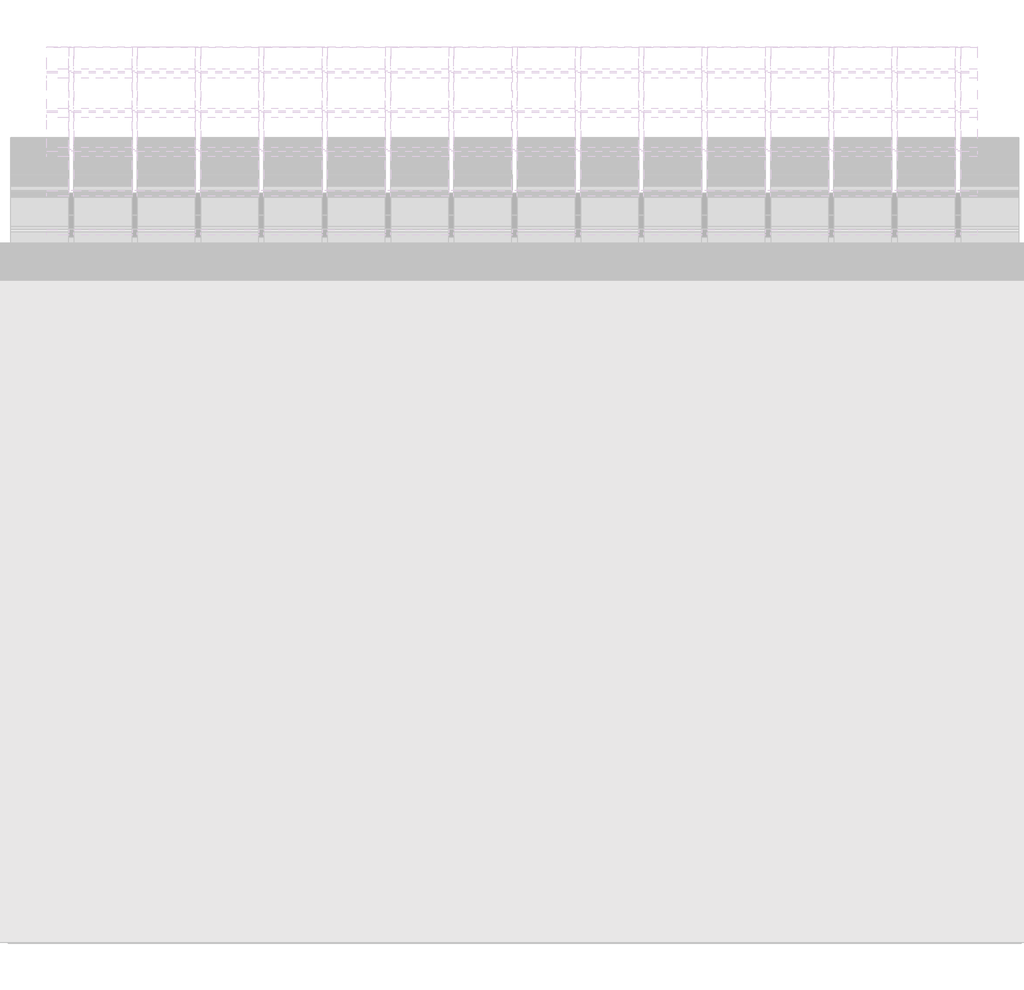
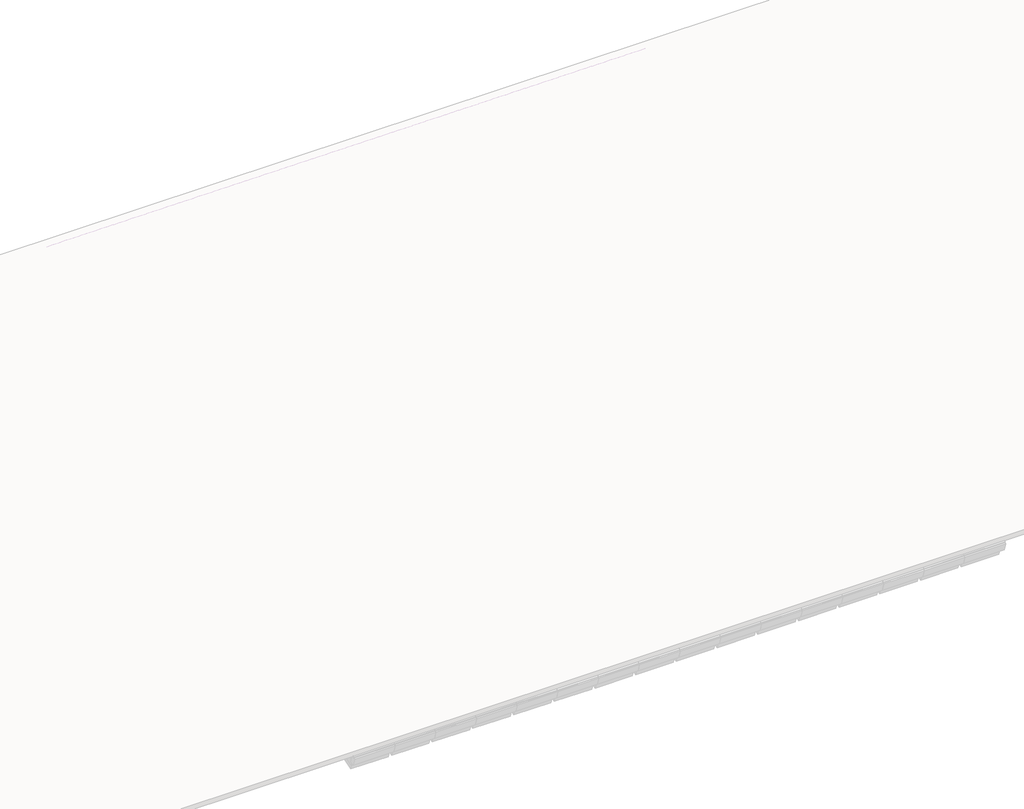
# One storey, part 27 of 57: 79 members, 45 plates.
"""IFC4 building model written with IfcOpenShell, lengths in millimetres."""

from ifc_helpers import new_model, si_unit, origin, place, context, project, spatial, transform, mapped, element, save
from components import rectangular_mullion_59984080, rectangular_mullion_2d2423ea, rectangular_mullion_caibro_e4384bba, rectangular_mullion_caibro_0993a3cf, rectangular_mullion_caibro_9bd7bc61, empty_system_panel_vazio_178faf58, empty_system_panel_vazio_2c78850d

model = new_model("IFC4")

# Units and contexts
model_context = context("Model", 3, world=origin())
ifc_project = project(units=[si_unit("LENGTHUNIT", "METRE", prefix="MILLI")], contexts=[model_context])

# Site, building, storey
site = spatial("IfcSite", under=ifc_project)
building = spatial("IfcBuilding", under=site)
storey = spatial("IfcBuildingStorey", under=building, Name="Nível 2", Elevation=4100.0)

# Members
placement = place(None, origin())
rectangular_mullion_shape = rectangular_mullion_59984080(model_context)
element("IfcMember", 1, ObjectType="Rectangular Mullion : Ripa", at=placement, inside=storey, context=model_context, shape_type="MappedRepresentation", body=[
    mapped(rectangular_mullion_shape, transform((20285.3781013, 8162.5832694, 3598.8241594), x_axis=(0.0, 0.9578262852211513, 0.2873478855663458), y_axis=(0.0, 0.2873478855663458, -0.9578262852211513), z_axis=(-1.0, 0.0, 0.0))),
])
element("IfcMember", 2, ObjectType="Rectangular Mullion : Ripa", at=placement, inside=storey, context=model_context, shape_type="MappedRepresentation", body=[
    mapped(rectangular_mullion_shape, transform((20882.4328578, 8162.5832694, 3598.8241594), x_axis=(0.0, 0.9578262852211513, 0.2873478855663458), y_axis=(0.0, 0.2873478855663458, -0.9578262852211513), z_axis=(-1.0, 0.0, 0.0))),
])
element("IfcMember", 3, ObjectType="Rectangular Mullion : Ripa", at=placement, inside=storey, context=model_context, shape_type="MappedRepresentation", body=[
    mapped(rectangular_mullion_shape, transform((21479.4876142, 8162.5832694, 3598.8241594), x_axis=(0.0, 0.9578262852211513, 0.2873478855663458), y_axis=(0.0, 0.2873478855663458, -0.9578262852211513), z_axis=(-1.0, 0.0, 0.0))),
])
element("IfcMember", 4, ObjectType="Rectangular Mullion : Ripa", at=placement, inside=storey, context=model_context, shape_type="MappedRepresentation", body=[
    mapped(rectangular_mullion_shape, transform((20285.3781013, 8532.7605281, 3709.877337), x_axis=(0.0, 0.9578262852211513, 0.2873478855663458), y_axis=(0.0, 0.2873478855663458, -0.9578262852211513), z_axis=(-1.0, 0.0, 0.0))),
])
element("IfcMember", 5, ObjectType="Rectangular Mullion : Ripa", at=placement, inside=storey, context=model_context, shape_type="MappedRepresentation", body=[
    mapped(rectangular_mullion_shape, transform((20882.4328578, 8532.7605281, 3709.877337), x_axis=(0.0, 0.9578262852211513, 0.2873478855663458), y_axis=(0.0, 0.2873478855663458, -0.9578262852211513), z_axis=(-1.0, 0.0, 0.0))),
])
element("IfcMember", 6, ObjectType="Rectangular Mullion : Ripa", at=placement, inside=storey, context=model_context, shape_type="MappedRepresentation", body=[
    mapped(rectangular_mullion_shape, transform((21479.4876142, 8532.7605281, 3709.877337), x_axis=(0.0, 0.9578262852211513, 0.2873478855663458), y_axis=(0.0, 0.2873478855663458, -0.9578262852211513), z_axis=(-1.0, 0.0, 0.0))),
])
element("IfcMember", 7, ObjectType="Rectangular Mullion : Ripa", at=placement, inside=storey, context=model_context, shape_type="MappedRepresentation", body=[
    mapped(rectangular_mullion_shape, transform((20285.3781013, 8902.9377868, 3820.9305146), x_axis=(0.0, 0.9578262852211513, 0.2873478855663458), y_axis=(0.0, 0.2873478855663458, -0.9578262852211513), z_axis=(-1.0, 0.0, 0.0))),
])
element("IfcMember", 8, ObjectType="Rectangular Mullion : Ripa", at=placement, inside=storey, context=model_context, shape_type="MappedRepresentation", body=[
    mapped(rectangular_mullion_shape, transform((20882.4328578, 8902.9377868, 3820.9305146), x_axis=(0.0, 0.9578262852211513, 0.2873478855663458), y_axis=(0.0, 0.2873478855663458, -0.9578262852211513), z_axis=(-1.0, 0.0, 0.0))),
])
element("IfcMember", 9, ObjectType="Rectangular Mullion : Ripa", at=placement, inside=storey, context=model_context, shape_type="MappedRepresentation", body=[
    mapped(rectangular_mullion_shape, transform((21479.4876142, 8902.9377868, 3820.9305146), x_axis=(0.0, 0.9578262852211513, 0.2873478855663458), y_axis=(0.0, 0.2873478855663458, -0.9578262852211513), z_axis=(-1.0, 0.0, 0.0))),
])
element("IfcMember", 10, ObjectType="Rectangular Mullion : Ripa", at=placement, inside=storey, context=model_context, shape_type="MappedRepresentation", body=[
    mapped(rectangular_mullion_shape, transform((20285.3781013, 9273.1150454, 3931.9836922), x_axis=(0.0, 0.9578262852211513, 0.2873478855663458), y_axis=(0.0, 0.2873478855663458, -0.9578262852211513), z_axis=(-1.0, 0.0, 0.0))),
])
element("IfcMember", 11, ObjectType="Rectangular Mullion : Ripa", at=placement, inside=storey, context=model_context, shape_type="MappedRepresentation", body=[
    mapped(rectangular_mullion_shape, transform((20882.4328578, 9273.1150454, 3931.9836922), x_axis=(0.0, 0.9578262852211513, 0.2873478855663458), y_axis=(0.0, 0.2873478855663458, -0.9578262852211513), z_axis=(-1.0, 0.0, 0.0))),
])
element("IfcMember", 12, ObjectType="Rectangular Mullion : Ripa", at=placement, inside=storey, context=model_context, shape_type="MappedRepresentation", body=[
    mapped(rectangular_mullion_shape, transform((20285.3781013, 9643.2923041, 4043.0368698), x_axis=(0.0, 0.9578262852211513, 0.2873478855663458), y_axis=(0.0, 0.2873478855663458, -0.9578262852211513), z_axis=(-1.0, 0.0, 0.0))),
])
element("IfcMember", 13, ObjectType="Rectangular Mullion : Ripa", at=placement, inside=storey, context=model_context, shape_type="MappedRepresentation", body=[
    mapped(rectangular_mullion_shape, transform((20882.4328578, 9643.2923041, 4043.0368698), x_axis=(0.0, 0.9578262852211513, 0.2873478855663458), y_axis=(0.0, 0.2873478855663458, -0.9578262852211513), z_axis=(-1.0, 0.0, 0.0))),
])
element("IfcMember", 14, ObjectType="Rectangular Mullion : Ripa", at=placement, inside=storey, context=model_context, shape_type="MappedRepresentation", body=[
    mapped(rectangular_mullion_shape, transform((18494.2138321, 10013.4695628, 4154.0900474), x_axis=(0.0, 0.9578262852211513, 0.2873478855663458), y_axis=(0.0, 0.2873478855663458, -0.9578262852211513), z_axis=(-1.0, 0.0, 0.0))),
])
element("IfcMember", 15, ObjectType="Rectangular Mullion : Ripa", at=placement, inside=storey, context=model_context, shape_type="MappedRepresentation", body=[
    mapped(rectangular_mullion_shape, transform((19091.2685885, 10013.4695628, 4154.0900474), x_axis=(0.0, 0.9578262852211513, 0.2873478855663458), y_axis=(0.0, 0.2873478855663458, -0.9578262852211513), z_axis=(-1.0, 0.0, 0.0))),
])
element("IfcMember", 16, ObjectType="Rectangular Mullion : Ripa", at=placement, inside=storey, context=model_context, shape_type="MappedRepresentation", body=[
    mapped(rectangular_mullion_shape, transform((19688.3233449, 10013.4695628, 4154.0900474), x_axis=(0.0, 0.9578262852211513, 0.2873478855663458), y_axis=(0.0, 0.2873478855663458, -0.9578262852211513), z_axis=(-1.0, 0.0, 0.0))),
])
element("IfcMember", 17, ObjectType="Rectangular Mullion : Ripa", at=placement, inside=storey, context=model_context, shape_type="MappedRepresentation", body=[
    mapped(rectangular_mullion_shape, transform((18494.2138321, 10383.6468214, 4265.143225), x_axis=(0.0, 0.9578262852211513, 0.2873478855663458), y_axis=(0.0, 0.2873478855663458, -0.9578262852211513), z_axis=(-1.0, 0.0, 0.0))),
])
element("IfcMember", 18, ObjectType="Rectangular Mullion : Ripa", at=placement, inside=storey, context=model_context, shape_type="MappedRepresentation", body=[
    mapped(rectangular_mullion_shape, transform((19091.2685885, 10383.6468214, 4265.143225), x_axis=(0.0, 0.9578262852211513, 0.2873478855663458), y_axis=(0.0, 0.2873478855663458, -0.9578262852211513), z_axis=(-1.0, 0.0, 0.0))),
])
element("IfcMember", 19, ObjectType="Rectangular Mullion : Ripa", at=placement, inside=storey, context=model_context, shape_type="MappedRepresentation", body=[
    mapped(rectangular_mullion_shape, transform((19688.3233449, 10383.6468214, 4265.143225), x_axis=(0.0, 0.9578262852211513, 0.2873478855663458), y_axis=(0.0, 0.2873478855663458, -0.9578262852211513), z_axis=(-1.0, 0.0, 0.0))),
])
element("IfcMember", 20, ObjectType="Rectangular Mullion : Ripa", at=placement, inside=storey, context=model_context, shape_type="MappedRepresentation", body=[
    mapped(rectangular_mullion_shape, transform((18494.2138321, 10753.8240801, 4376.1964026), x_axis=(0.0, 0.9578262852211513, 0.2873478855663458), y_axis=(0.0, 0.2873478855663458, -0.9578262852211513), z_axis=(-1.0, 0.0, 0.0))),
])
element("IfcMember", 21, ObjectType="Rectangular Mullion : Ripa", at=placement, inside=storey, context=model_context, shape_type="MappedRepresentation", body=[
    mapped(rectangular_mullion_shape, transform((19091.2685885, 10753.8240801, 4376.1964026), x_axis=(0.0, 0.9578262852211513, 0.2873478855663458), y_axis=(0.0, 0.2873478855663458, -0.9578262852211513), z_axis=(-1.0, 0.0, 0.0))),
])
element("IfcMember", 22, ObjectType="Rectangular Mullion : Ripa", at=placement, inside=storey, context=model_context, shape_type="MappedRepresentation", body=[
    mapped(rectangular_mullion_shape, transform((19688.3233449, 10753.8240801, 4376.1964026), x_axis=(0.0, 0.9578262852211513, 0.2873478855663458), y_axis=(0.0, 0.2873478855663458, -0.9578262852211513), z_axis=(-1.0, 0.0, 0.0))),
])
element("IfcMember", 23, ObjectType="Rectangular Mullion : Ripa", at=placement, inside=storey, context=model_context, shape_type="MappedRepresentation", body=[
    mapped(rectangular_mullion_shape, transform((18494.2138321, 11124.0013387, 4487.2495802), x_axis=(0.0, 0.9578262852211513, 0.2873478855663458), y_axis=(0.0, 0.2873478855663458, -0.9578262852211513), z_axis=(-1.0, 0.0, 0.0))),
])
element("IfcMember", 24, ObjectType="Rectangular Mullion : Ripa", at=placement, inside=storey, context=model_context, shape_type="MappedRepresentation", body=[
    mapped(rectangular_mullion_shape, transform((19091.2685885, 11124.0013387, 4487.2495802), x_axis=(0.0, 0.9578262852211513, 0.2873478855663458), y_axis=(0.0, 0.2873478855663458, -0.9578262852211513), z_axis=(-1.0, 0.0, 0.0))),
])
element("IfcMember", 25, ObjectType="Rectangular Mullion : Ripa", at=placement, inside=storey, context=model_context, shape_type="MappedRepresentation", body=[
    mapped(rectangular_mullion_shape, transform((19688.3233449, 11124.0013387, 4487.2495802), x_axis=(0.0, 0.9578262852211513, 0.2873478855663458), y_axis=(0.0, 0.2873478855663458, -0.9578262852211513), z_axis=(-1.0, 0.0, 0.0))),
])
element("IfcMember", 26, ObjectType="Rectangular Mullion : Ripa", at=placement, inside=storey, context=model_context, shape_type="MappedRepresentation", body=[
    mapped(rectangular_mullion_shape, transform((17897.1590756, 11494.1785974, 4598.3027578), x_axis=(0.0, 0.9578262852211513, 0.2873478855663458), y_axis=(0.0, 0.2873478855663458, -0.9578262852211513), z_axis=(-1.0, 0.0, 0.0))),
])
element("IfcMember", 27, ObjectType="Rectangular Mullion : Ripa", at=placement, inside=storey, context=model_context, shape_type="MappedRepresentation", body=[
    mapped(rectangular_mullion_shape, transform((18494.2138321, 11494.1785974, 4598.3027578), x_axis=(0.0, 0.9578262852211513, 0.2873478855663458), y_axis=(0.0, 0.2873478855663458, -0.9578262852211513), z_axis=(-1.0, 0.0, 0.0))),
])
element("IfcMember", 28, ObjectType="Rectangular Mullion : Ripa", at=placement, inside=storey, context=model_context, shape_type="MappedRepresentation", body=[
    mapped(rectangular_mullion_shape, transform((19091.2685885, 11494.1785974, 4598.3027578), x_axis=(0.0, 0.9578262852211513, 0.2873478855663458), y_axis=(0.0, 0.2873478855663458, -0.9578262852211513), z_axis=(-1.0, 0.0, 0.0))),
])
element("IfcMember", 29, ObjectType="Rectangular Mullion : Ripa", at=placement, inside=storey, context=model_context, shape_type="MappedRepresentation", body=[
    mapped(rectangular_mullion_shape, transform((19688.3233449, 11494.1785974, 4598.3027578), x_axis=(0.0, 0.9578262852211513, 0.2873478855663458), y_axis=(0.0, 0.2873478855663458, -0.9578262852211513), z_axis=(-1.0, 0.0, 0.0))),
])
element("IfcMember", 30, ObjectType="Rectangular Mullion : Ripa", at=placement, inside=storey, context=model_context, shape_type="MappedRepresentation", body=[
    mapped(rectangular_mullion_shape, transform((17300.1043192, 11864.3558561, 4709.3559354), x_axis=(0.0, 0.9578262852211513, 0.2873478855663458), y_axis=(0.0, 0.2873478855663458, -0.9578262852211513), z_axis=(-1.0, 0.0, 0.0))),
])
element("IfcMember", 31, ObjectType="Rectangular Mullion : Ripa", at=placement, inside=storey, context=model_context, shape_type="MappedRepresentation", body=[
    mapped(rectangular_mullion_shape, transform((17897.1590756, 11864.3558561, 4709.3559354), x_axis=(0.0, 0.9578262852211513, 0.2873478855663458), y_axis=(0.0, 0.2873478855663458, -0.9578262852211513), z_axis=(-1.0, 0.0, 0.0))),
])
element("IfcMember", 32, ObjectType="Rectangular Mullion : Ripa", at=placement, inside=storey, context=model_context, shape_type="MappedRepresentation", body=[
    mapped(rectangular_mullion_shape, transform((18494.2138321, 11864.3558561, 4709.3559354), x_axis=(0.0, 0.9578262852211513, 0.2873478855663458), y_axis=(0.0, 0.2873478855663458, -0.9578262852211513), z_axis=(-1.0, 0.0, 0.0))),
])
element("IfcMember", 33, ObjectType="Rectangular Mullion : Ripa", at=placement, inside=storey, context=model_context, shape_type="MappedRepresentation", body=[
    mapped(rectangular_mullion_shape, transform((19091.2685885, 11864.3558561, 4709.3559354), x_axis=(0.0, 0.9578262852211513, 0.2873478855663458), y_axis=(0.0, 0.2873478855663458, -0.9578262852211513), z_axis=(-1.0, 0.0, 0.0))),
])
element("IfcMember", 34, ObjectType="Rectangular Mullion : Ripa", at=placement, inside=storey, context=model_context, shape_type="MappedRepresentation", body=[
    mapped(rectangular_mullion_shape, transform((19688.3233449, 11864.3558561, 4709.3559354), x_axis=(0.0, 0.9578262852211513, 0.2873478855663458), y_axis=(0.0, 0.2873478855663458, -0.9578262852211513), z_axis=(-1.0, 0.0, 0.0))),
])
rectangular_mullion_2_shape = rectangular_mullion_2d2423ea(model_context)
element("IfcMember", 35, ObjectType="Rectangular Mullion : Terça", at=placement, inside=storey, context=model_context, shape_type="MappedRepresentation", body=[
    mapped(rectangular_mullion_2_shape, transform((20285.3781013, 9159.0196393, 3835.1132313), x_axis=(0.0, 0.9578262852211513, 0.2873478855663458), y_axis=(0.0, 0.2873478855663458, -0.9578262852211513), z_axis=(-1.0, 0.0, 0.0))),
])
element("IfcMember", 36, ObjectType="Rectangular Mullion : Terça", at=placement, inside=storey, context=model_context, shape_type="MappedRepresentation", body=[
    mapped(rectangular_mullion_2_shape, transform((20882.4328578, 9159.0196393, 3835.1132313), x_axis=(0.0, 0.9578262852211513, 0.2873478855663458), y_axis=(0.0, 0.2873478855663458, -0.9578262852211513), z_axis=(-1.0, 0.0, 0.0))),
])
element("IfcMember", 37, ObjectType="Rectangular Mullion : Terça", at=placement, inside=storey, context=model_context, shape_type="MappedRepresentation", body=[
    mapped(rectangular_mullion_2_shape, transform((17300.1043192, 11285.144311, 4472.9506328), x_axis=(0.0, 0.9578262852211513, 0.2873478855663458), y_axis=(0.0, 0.2873478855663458, -0.9578262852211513), z_axis=(-1.0, 0.0, 0.0))),
])
element("IfcMember", 38, ObjectType="Rectangular Mullion : Terça", at=placement, inside=storey, context=model_context, shape_type="MappedRepresentation", body=[
    mapped(rectangular_mullion_2_shape, transform((17897.1590756, 11285.144311, 4472.9506328), x_axis=(0.0, 0.9578262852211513, 0.2873478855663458), y_axis=(0.0, 0.2873478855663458, -0.9578262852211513), z_axis=(-1.0, 0.0, 0.0))),
])
element("IfcMember", 39, ObjectType="Rectangular Mullion : Terça", at=placement, inside=storey, context=model_context, shape_type="MappedRepresentation", body=[
    mapped(rectangular_mullion_2_shape, transform((18494.2138321, 11285.144311, 4472.9506328), x_axis=(0.0, 0.9578262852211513, 0.2873478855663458), y_axis=(0.0, 0.2873478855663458, -0.9578262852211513), z_axis=(-1.0, 0.0, 0.0))),
])
element("IfcMember", 40, ObjectType="Rectangular Mullion : Terça", at=placement, inside=storey, context=model_context, shape_type="MappedRepresentation", body=[
    mapped(rectangular_mullion_2_shape, transform((19091.2685885, 11285.144311, 4472.9506328), x_axis=(0.0, 0.9578262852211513, 0.2873478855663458), y_axis=(0.0, 0.2873478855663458, -0.9578262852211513), z_axis=(-1.0, 0.0, 0.0))),
])
element("IfcMember", 41, ObjectType="Rectangular Mullion : Terça", at=placement, inside=storey, context=model_context, shape_type="MappedRepresentation", body=[
    mapped(rectangular_mullion_2_shape, transform((19688.3233449, 11285.144311, 4472.9506328), x_axis=(0.0, 0.9578262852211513, 0.2873478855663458), y_axis=(0.0, 0.2873478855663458, -0.9578262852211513), z_axis=(-1.0, 0.0, 0.0))),
])
rectangular_mullion_caibro_shape = rectangular_mullion_caibro_e4384bba(model_context)
element("IfcMember", 42, ObjectType="Rectangular Mullion : Caibro", at=placement, inside=storey, context=model_context, shape_type="MappedRepresentation", body=[
    mapped(rectangular_mullion_caibro_shape, transform((18469.2138321, 10013.4695628, 4154.0900474), x_axis=(1.0, 0.0, 0.0), y_axis=(0.0, 0.28734788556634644, -0.9578262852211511), z_axis=(0.0, 0.957826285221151, 0.2873478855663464))),
])
element("IfcMember", 43, ObjectType="Rectangular Mullion : Caibro", at=placement, inside=storey, context=model_context, shape_type="MappedRepresentation", body=[
    mapped(rectangular_mullion_caibro_shape, transform((18469.2138321, 10383.6468214, 4265.143225), x_axis=(1.0, 0.0, 0.0), y_axis=(0.0, 0.28734788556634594, -0.9578262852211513), z_axis=(0.0, 0.9578262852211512, 0.2873478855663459))),
])
element("IfcMember", 44, ObjectType="Rectangular Mullion : Caibro", at=placement, inside=storey, context=model_context, shape_type="MappedRepresentation", body=[
    mapped(rectangular_mullion_caibro_shape, transform((18469.2138321, 10753.8240801, 4376.1964026), x_axis=(1.0, 0.0, 0.0), y_axis=(0.0, 0.28734788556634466, -0.9578262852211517), z_axis=(0.0, 0.9578262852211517, 0.28734788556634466))),
])
element("IfcMember", 45, ObjectType="Rectangular Mullion : Caibro", at=placement, inside=storey, context=model_context, shape_type="MappedRepresentation", body=[
    mapped(rectangular_mullion_caibro_shape, transform((18469.2138321, 11124.0013387, 4487.2495802), x_axis=(1.0, 0.0, 0.0), y_axis=(0.0, 0.2873478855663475, -0.9578262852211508), z_axis=(0.0, 0.9578262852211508, 0.2873478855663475))),
])
element("IfcMember", 46, ObjectType="Rectangular Mullion : Caibro", at=placement, inside=storey, context=model_context, shape_type="MappedRepresentation", body=[
    mapped(rectangular_mullion_caibro_shape, transform((18469.2138321, 11494.1785974, 4598.3027578), x_axis=(1.0, 0.0, 0.0), y_axis=(0.0, 0.28734788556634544, -0.9578262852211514), z_axis=(0.0, 0.9578262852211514, 0.28734788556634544))),
])
element("IfcMember", 47, ObjectType="Rectangular Mullion : Caibro", at=placement, inside=storey, context=model_context, shape_type="MappedRepresentation", body=[
    mapped(rectangular_mullion_caibro_shape, transform((18469.2138321, 11864.3558561, 4709.3559354), x_axis=(1.0, 0.0, 0.0), y_axis=(0.0, 0.28734788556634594, -0.9578262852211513), z_axis=(0.0, 0.9578262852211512, 0.2873478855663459))),
])
element("IfcMember", 48, ObjectType="Rectangular Mullion : Caibro", at=placement, inside=storey, context=model_context, shape_type="MappedRepresentation", body=[
    mapped(rectangular_mullion_caibro_shape, transform((19066.2685885, 10013.4695628, 4154.0900474), x_axis=(1.0, 0.0, 0.0), y_axis=(0.0, 0.28734788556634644, -0.9578262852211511), z_axis=(0.0, 0.957826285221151, 0.2873478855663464))),
])
element("IfcMember", 49, ObjectType="Rectangular Mullion : Caibro", at=placement, inside=storey, context=model_context, shape_type="MappedRepresentation", body=[
    mapped(rectangular_mullion_caibro_shape, transform((19066.2685885, 10383.6468214, 4265.143225), x_axis=(1.0, 0.0, 0.0), y_axis=(0.0, 0.28734788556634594, -0.9578262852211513), z_axis=(0.0, 0.9578262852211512, 0.2873478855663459))),
])
element("IfcMember", 50, ObjectType="Rectangular Mullion : Caibro", at=placement, inside=storey, context=model_context, shape_type="MappedRepresentation", body=[
    mapped(rectangular_mullion_caibro_shape, transform((19066.2685885, 10753.8240801, 4376.1964026), x_axis=(1.0, 0.0, 0.0), y_axis=(0.0, 0.28734788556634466, -0.9578262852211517), z_axis=(0.0, 0.9578262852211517, 0.28734788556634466))),
])
element("IfcMember", 51, ObjectType="Rectangular Mullion : Caibro", at=placement, inside=storey, context=model_context, shape_type="MappedRepresentation", body=[
    mapped(rectangular_mullion_caibro_shape, transform((19066.2685885, 11124.0013387, 4487.2495802), x_axis=(1.0, 0.0, 0.0), y_axis=(0.0, 0.2873478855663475, -0.9578262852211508), z_axis=(0.0, 0.9578262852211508, 0.2873478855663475))),
])
element("IfcMember", 52, ObjectType="Rectangular Mullion : Caibro", at=placement, inside=storey, context=model_context, shape_type="MappedRepresentation", body=[
    mapped(rectangular_mullion_caibro_shape, transform((19066.2685885, 11494.1785974, 4598.3027578), x_axis=(1.0, 0.0, 0.0), y_axis=(0.0, 0.28734788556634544, -0.9578262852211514), z_axis=(0.0, 0.9578262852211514, 0.28734788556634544))),
])
element("IfcMember", 53, ObjectType="Rectangular Mullion : Caibro", at=placement, inside=storey, context=model_context, shape_type="MappedRepresentation", body=[
    mapped(rectangular_mullion_caibro_shape, transform((19066.2685885, 11864.3558561, 4709.3559354), x_axis=(1.0, 0.0, 0.0), y_axis=(0.0, 0.28734788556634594, -0.9578262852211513), z_axis=(0.0, 0.9578262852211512, 0.2873478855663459))),
])
element("IfcMember", 54, ObjectType="Rectangular Mullion : Caibro", at=placement, inside=storey, context=model_context, shape_type="MappedRepresentation", body=[
    mapped(rectangular_mullion_caibro_shape, transform((19663.3233449, 10013.4695628, 4154.0900474), x_axis=(1.0, 0.0, 0.0), y_axis=(0.0, 0.28734788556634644, -0.9578262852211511), z_axis=(0.0, 0.957826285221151, 0.2873478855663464))),
])
element("IfcMember", 55, ObjectType="Rectangular Mullion : Caibro", at=placement, inside=storey, context=model_context, shape_type="MappedRepresentation", body=[
    mapped(rectangular_mullion_caibro_shape, transform((19663.3233449, 10383.6468214, 4265.143225), x_axis=(1.0, 0.0, 0.0), y_axis=(0.0, 0.28734788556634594, -0.9578262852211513), z_axis=(0.0, 0.9578262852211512, 0.2873478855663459))),
])
element("IfcMember", 56, ObjectType="Rectangular Mullion : Caibro", at=placement, inside=storey, context=model_context, shape_type="MappedRepresentation", body=[
    mapped(rectangular_mullion_caibro_shape, transform((19663.3233449, 10753.8240801, 4376.1964026), x_axis=(1.0, 0.0, 0.0), y_axis=(0.0, 0.28734788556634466, -0.9578262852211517), z_axis=(0.0, 0.9578262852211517, 0.28734788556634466))),
])
element("IfcMember", 57, ObjectType="Rectangular Mullion : Caibro", at=placement, inside=storey, context=model_context, shape_type="MappedRepresentation", body=[
    mapped(rectangular_mullion_caibro_shape, transform((19663.3233449, 11124.0013387, 4487.2495802), x_axis=(1.0, 0.0, 0.0), y_axis=(0.0, 0.2873478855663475, -0.9578262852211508), z_axis=(0.0, 0.9578262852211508, 0.2873478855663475))),
])
element("IfcMember", 58, ObjectType="Rectangular Mullion : Caibro", at=placement, inside=storey, context=model_context, shape_type="MappedRepresentation", body=[
    mapped(rectangular_mullion_caibro_shape, transform((19663.3233449, 11494.1785974, 4598.3027578), x_axis=(1.0, 0.0, 0.0), y_axis=(0.0, 0.28734788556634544, -0.9578262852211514), z_axis=(0.0, 0.9578262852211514, 0.28734788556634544))),
])
element("IfcMember", 59, ObjectType="Rectangular Mullion : Caibro", at=placement, inside=storey, context=model_context, shape_type="MappedRepresentation", body=[
    mapped(rectangular_mullion_caibro_shape, transform((19663.3233449, 11864.3558561, 4709.3559354), x_axis=(1.0, 0.0, 0.0), y_axis=(0.0, 0.28734788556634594, -0.9578262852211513), z_axis=(0.0, 0.9578262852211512, 0.2873478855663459))),
])
element("IfcMember", 60, ObjectType="Rectangular Mullion : Caibro", at=placement, inside=storey, context=model_context, shape_type="MappedRepresentation", body=[
    mapped(rectangular_mullion_caibro_shape, transform((20260.3781013, 8162.5832694, 3598.8241594), x_axis=(1.0, 0.0, 0.0), y_axis=(0.0, 0.28734788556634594, -0.9578262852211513), z_axis=(0.0, 0.9578262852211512, 0.2873478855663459))),
])
element("IfcMember", 61, ObjectType="Rectangular Mullion : Caibro", at=placement, inside=storey, context=model_context, shape_type="MappedRepresentation", body=[
    mapped(rectangular_mullion_caibro_shape, transform((20260.3781013, 8532.7605281, 3709.877337), x_axis=(1.0, 0.0, 0.0), y_axis=(0.0, 0.2873478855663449, -0.9578262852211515), z_axis=(0.0, 0.9578262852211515, 0.2873478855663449))),
])
element("IfcMember", 62, ObjectType="Rectangular Mullion : Caibro", at=placement, inside=storey, context=model_context, shape_type="MappedRepresentation", body=[
    mapped(rectangular_mullion_caibro_shape, transform((20260.3781013, 8902.9377868, 3820.9305146), x_axis=(1.0, 0.0, 0.0), y_axis=(0.0, 0.2873478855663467, -0.9578262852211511), z_axis=(0.0, 0.9578262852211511, 0.2873478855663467))),
])
element("IfcMember", 63, ObjectType="Rectangular Mullion : Caibro", at=placement, inside=storey, context=model_context, shape_type="MappedRepresentation", body=[
    mapped(rectangular_mullion_caibro_shape, transform((20260.3781013, 9273.1150454, 3931.9836922), x_axis=(1.0, 0.0, 0.0), y_axis=(0.0, 0.2873478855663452, -0.9578262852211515), z_axis=(0.0, 0.9578262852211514, 0.28734788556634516))),
])
element("IfcMember", 64, ObjectType="Rectangular Mullion : Caibro", at=placement, inside=storey, context=model_context, shape_type="MappedRepresentation", body=[
    mapped(rectangular_mullion_caibro_shape, transform((20260.3781013, 9643.2923041, 4043.0368698), x_axis=(1.0, 0.0, 0.0), y_axis=(0.0, 0.2873478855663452, -0.9578262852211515), z_axis=(0.0, 0.9578262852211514, 0.28734788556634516))),
])
element("IfcMember", 65, ObjectType="Rectangular Mullion : Caibro", at=placement, inside=storey, context=model_context, shape_type="MappedRepresentation", body=[
    mapped(rectangular_mullion_caibro_shape, transform((20857.4328578, 8162.5832694, 3598.8241594), x_axis=(1.0, 0.0, 0.0), y_axis=(0.0, 0.28734788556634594, -0.9578262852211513), z_axis=(0.0, 0.9578262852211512, 0.2873478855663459))),
])
element("IfcMember", 66, ObjectType="Rectangular Mullion : Caibro", at=placement, inside=storey, context=model_context, shape_type="MappedRepresentation", body=[
    mapped(rectangular_mullion_caibro_shape, transform((20857.4328578, 8532.7605281, 3709.877337), x_axis=(1.0, 0.0, 0.0), y_axis=(0.0, 0.2873478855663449, -0.9578262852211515), z_axis=(0.0, 0.9578262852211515, 0.2873478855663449))),
])
element("IfcMember", 67, ObjectType="Rectangular Mullion : Caibro", at=placement, inside=storey, context=model_context, shape_type="MappedRepresentation", body=[
    mapped(rectangular_mullion_caibro_shape, transform((20857.4328578, 8902.9377868, 3820.9305146), x_axis=(1.0, 0.0, 0.0), y_axis=(0.0, 0.2873478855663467, -0.9578262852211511), z_axis=(0.0, 0.9578262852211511, 0.2873478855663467))),
])
element("IfcMember", 68, ObjectType="Rectangular Mullion : Caibro", at=placement, inside=storey, context=model_context, shape_type="MappedRepresentation", body=[
    mapped(rectangular_mullion_caibro_shape, transform((20857.4328578, 9273.1150454, 3931.9836922), x_axis=(1.0, 0.0, 0.0), y_axis=(0.0, 0.2873478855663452, -0.9578262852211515), z_axis=(0.0, 0.9578262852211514, 0.28734788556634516))),
])
element("IfcMember", 69, ObjectType="Rectangular Mullion : Caibro", at=placement, inside=storey, context=model_context, shape_type="MappedRepresentation", body=[
    mapped(rectangular_mullion_caibro_shape, transform((20857.4328578, 9643.2923041, 4043.0368698), x_axis=(1.0, 0.0, 0.0), y_axis=(0.0, 0.2873478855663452, -0.9578262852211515), z_axis=(0.0, 0.9578262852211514, 0.28734788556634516))),
])
element("IfcMember", 70, ObjectType="Rectangular Mullion : Caibro", at=placement, inside=storey, context=model_context, shape_type="MappedRepresentation", body=[
    mapped(rectangular_mullion_caibro_shape, transform((21454.4876142, 8162.5832694, 3598.8241594), x_axis=(1.0, 0.0, 0.0), y_axis=(0.0, 0.28734788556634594, -0.9578262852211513), z_axis=(0.0, 0.9578262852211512, 0.2873478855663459))),
])
element("IfcMember", 71, ObjectType="Rectangular Mullion : Caibro", at=placement, inside=storey, context=model_context, shape_type="MappedRepresentation", body=[
    mapped(rectangular_mullion_caibro_shape, transform((21454.4876142, 8532.7605281, 3709.877337), x_axis=(1.0, 0.0, 0.0), y_axis=(0.0, 0.2873478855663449, -0.9578262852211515), z_axis=(0.0, 0.9578262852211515, 0.2873478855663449))),
])
element("IfcMember", 72, ObjectType="Rectangular Mullion : Caibro", at=placement, inside=storey, context=model_context, shape_type="MappedRepresentation", body=[
    mapped(rectangular_mullion_caibro_shape, transform((21454.4876142, 8902.9377868, 3820.9305146), x_axis=(1.0, 0.0, 0.0), y_axis=(0.0, 0.2873478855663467, -0.9578262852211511), z_axis=(0.0, 0.9578262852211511, 0.2873478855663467))),
])
rectangular_mullion_caibro_2_shape = rectangular_mullion_caibro_0993a3cf(model_context)
element("IfcMember", 73, ObjectType="Rectangular Mullion : Caibro", at=placement, inside=storey, context=model_context, shape_type="MappedRepresentation", body=[
    mapped(rectangular_mullion_caibro_2_shape, transform((20260.3781013, 9159.0196393, 3835.1132313), x_axis=(1.0, 0.0, 0.0), y_axis=(0.0, 0.2873478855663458, -0.9578262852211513), z_axis=(0.0, 0.9578262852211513, 0.2873478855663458))),
])
element("IfcMember", 74, ObjectType="Rectangular Mullion : Caibro", at=placement, inside=storey, context=model_context, shape_type="MappedRepresentation", body=[
    mapped(rectangular_mullion_caibro_2_shape, transform((20857.4328578, 9159.0196393, 3835.1132313), x_axis=(1.0, 0.0, 0.0), y_axis=(0.0, 0.2873478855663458, -0.9578262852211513), z_axis=(0.0, 0.9578262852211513, 0.2873478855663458))),
])
rectangular_mullion_caibro_3_shape = rectangular_mullion_caibro_9bd7bc61(model_context)
element("IfcMember", 75, ObjectType="Rectangular Mullion : Caibro", at=placement, inside=storey, context=model_context, shape_type="MappedRepresentation", body=[
    mapped(rectangular_mullion_caibro_3_shape, transform((17275.1043192, 11285.144311, 4472.9506328), x_axis=(1.0, 0.0, 0.0), y_axis=(0.0, 0.28734788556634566, -0.9578262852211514), z_axis=(0.0, 0.9578262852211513, 0.2873478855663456))),
])
element("IfcMember", 76, ObjectType="Rectangular Mullion : Caibro", at=placement, inside=storey, context=model_context, shape_type="MappedRepresentation", body=[
    mapped(rectangular_mullion_caibro_3_shape, transform((17872.1590756, 11285.144311, 4472.9506328), x_axis=(1.0, 0.0, 0.0), y_axis=(0.0, 0.28734788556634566, -0.9578262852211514), z_axis=(0.0, 0.9578262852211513, 0.2873478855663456))),
])
element("IfcMember", 77, ObjectType="Rectangular Mullion : Caibro", at=placement, inside=storey, context=model_context, shape_type="MappedRepresentation", body=[
    mapped(rectangular_mullion_caibro_3_shape, transform((18469.2138321, 11285.144311, 4472.9506328), x_axis=(1.0, 0.0, 0.0), y_axis=(0.0, 0.28734788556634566, -0.9578262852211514), z_axis=(0.0, 0.9578262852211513, 0.2873478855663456))),
])
element("IfcMember", 78, ObjectType="Rectangular Mullion : Caibro", at=placement, inside=storey, context=model_context, shape_type="MappedRepresentation", body=[
    mapped(rectangular_mullion_caibro_3_shape, transform((19066.2685885, 11285.144311, 4472.9506328), x_axis=(1.0, 0.0, 0.0), y_axis=(0.0, 0.28734788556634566, -0.9578262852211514), z_axis=(0.0, 0.9578262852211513, 0.2873478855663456))),
])
element("IfcMember", 79, ObjectType="Rectangular Mullion : Caibro", at=placement, inside=storey, context=model_context, shape_type="MappedRepresentation", body=[
    mapped(rectangular_mullion_caibro_3_shape, transform((19663.3233449, 11285.144311, 4472.9506328), x_axis=(1.0, 0.0, 0.0), y_axis=(0.0, 0.28734788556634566, -0.9578262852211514), z_axis=(0.0, 0.9578262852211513, 0.2873478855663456))),
])

# Plates
empty_system_panel_vazio_shape = empty_system_panel_vazio_178faf58(model_context)
element("IfcPlate", 80, ObjectType="Empty System Panel : Vazio", at=placement, inside=storey, context=model_context, shape_type="MappedRepresentation", body=[
    mapped(empty_system_panel_vazio_shape, transform((20558.9054795, 8162.5832694, 3598.8241594), x_axis=(1.0, 0.0, 0.0), y_axis=(0.0, 0.2873478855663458, -0.9578262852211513), z_axis=(0.0, 0.9578262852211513, 0.2873478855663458))),
])
element("IfcPlate", 81, ObjectType="Empty System Panel : Vazio", at=placement, inside=storey, context=model_context, shape_type="MappedRepresentation", body=[
    mapped(empty_system_panel_vazio_shape, transform((21155.960236, 8162.5832694, 3598.8241594), x_axis=(1.0, 0.0, 0.0), y_axis=(0.0, 0.2873478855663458, -0.9578262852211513), z_axis=(0.0, 0.9578262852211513, 0.2873478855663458))),
])
element("IfcPlate", 82, ObjectType="Empty System Panel : Vazio", at=placement, inside=storey, context=model_context, shape_type="MappedRepresentation", body=[
    mapped(empty_system_panel_vazio_shape, transform((21753.0149924, 8162.5832694, 3598.8241594), x_axis=(1.0, 0.0, 0.0), y_axis=(0.0, 0.2873478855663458, -0.9578262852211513), z_axis=(0.0, 0.9578262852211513, 0.2873478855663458))),
])
element("IfcPlate", 83, ObjectType="Empty System Panel : Vazio", at=placement, inside=storey, context=model_context, shape_type="MappedRepresentation", body=[
    mapped(empty_system_panel_vazio_shape, transform((20558.9054795, 8532.7605281, 3709.877337), x_axis=(1.0, 0.0, 0.0), y_axis=(0.0, 0.2873478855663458, -0.9578262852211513), z_axis=(0.0, 0.9578262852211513, 0.2873478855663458))),
])
element("IfcPlate", 84, ObjectType="Empty System Panel : Vazio", at=placement, inside=storey, context=model_context, shape_type="MappedRepresentation", body=[
    mapped(empty_system_panel_vazio_shape, transform((21155.960236, 8532.7605281, 3709.877337), x_axis=(1.0, 0.0, 0.0), y_axis=(0.0, 0.2873478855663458, -0.9578262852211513), z_axis=(0.0, 0.9578262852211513, 0.2873478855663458))),
])
element("IfcPlate", 85, ObjectType="Empty System Panel : Vazio", at=placement, inside=storey, context=model_context, shape_type="MappedRepresentation", body=[
    mapped(empty_system_panel_vazio_shape, transform((21753.0149924, 8532.7605281, 3709.877337), x_axis=(1.0, 0.0, 0.0), y_axis=(0.0, 0.2873478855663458, -0.9578262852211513), z_axis=(0.0, 0.9578262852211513, 0.2873478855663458))),
])
element("IfcPlate", 86, ObjectType="Empty System Panel : Vazio", at=placement, inside=storey, context=model_context, shape_type="MappedRepresentation", body=[
    mapped(empty_system_panel_vazio_shape, transform((20558.9054795, 8902.9377868, 3820.9305146), x_axis=(1.0, 0.0, 0.0), y_axis=(0.0, 0.2873478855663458, -0.9578262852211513), z_axis=(0.0, 0.9578262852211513, 0.2873478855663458))),
])
element("IfcPlate", 87, ObjectType="Empty System Panel : Vazio", at=placement, inside=storey, context=model_context, shape_type="MappedRepresentation", body=[
    mapped(empty_system_panel_vazio_shape, transform((21155.960236, 8902.9377868, 3820.9305146), x_axis=(1.0, 0.0, 0.0), y_axis=(0.0, 0.2873478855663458, -0.9578262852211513), z_axis=(0.0, 0.9578262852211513, 0.2873478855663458))),
])
element("IfcPlate", 88, ObjectType="Empty System Panel : Vazio", at=placement, inside=storey, context=model_context, shape_type="MappedRepresentation", body=[
    mapped(empty_system_panel_vazio_shape, transform((21753.0149924, 8902.9377868, 3820.9305146), x_axis=(1.0, 0.0, 0.0), y_axis=(0.0, 0.2873478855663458, -0.9578262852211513), z_axis=(0.0, 0.9578262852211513, 0.2873478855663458))),
])
element("IfcPlate", 89, ObjectType="Empty System Panel : Vazio", at=placement, inside=storey, context=model_context, shape_type="MappedRepresentation", body=[
    mapped(empty_system_panel_vazio_shape, transform((20558.9054795, 9273.1150454, 3931.9836922), x_axis=(1.0, 0.0, 0.0), y_axis=(0.0, 0.2873478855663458, -0.9578262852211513), z_axis=(0.0, 0.9578262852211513, 0.2873478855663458))),
])
element("IfcPlate", 90, ObjectType="Empty System Panel : Vazio", at=placement, inside=storey, context=model_context, shape_type="MappedRepresentation", body=[
    mapped(empty_system_panel_vazio_shape, transform((21155.960236, 9273.1150454, 3931.9836922), x_axis=(1.0, 0.0, 0.0), y_axis=(0.0, 0.2873478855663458, -0.9578262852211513), z_axis=(0.0, 0.9578262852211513, 0.2873478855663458))),
])
element("IfcPlate", 91, ObjectType="Empty System Panel : Vazio", at=placement, inside=storey, context=model_context, shape_type="MappedRepresentation", body=[
    mapped(empty_system_panel_vazio_shape, transform((21753.0149924, 9273.1150454, 3931.9836922), x_axis=(1.0, 0.0, 0.0), y_axis=(0.0, 0.2873478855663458, -0.9578262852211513), z_axis=(0.0, 0.9578262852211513, 0.2873478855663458))),
])
element("IfcPlate", 92, ObjectType="Empty System Panel : Vazio", at=placement, inside=storey, context=model_context, shape_type="MappedRepresentation", body=[
    mapped(empty_system_panel_vazio_shape, transform((20558.9054795, 9643.2923041, 4043.0368698), x_axis=(1.0, 0.0, 0.0), y_axis=(0.0, 0.2873478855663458, -0.9578262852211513), z_axis=(0.0, 0.9578262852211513, 0.2873478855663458))),
])
element("IfcPlate", 93, ObjectType="Empty System Panel : Vazio", at=placement, inside=storey, context=model_context, shape_type="MappedRepresentation", body=[
    mapped(empty_system_panel_vazio_shape, transform((21155.960236, 9643.2923041, 4043.0368698), x_axis=(1.0, 0.0, 0.0), y_axis=(0.0, 0.2873478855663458, -0.9578262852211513), z_axis=(0.0, 0.9578262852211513, 0.2873478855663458))),
])
element("IfcPlate", 94, ObjectType="Empty System Panel : Vazio", at=placement, inside=storey, context=model_context, shape_type="MappedRepresentation", body=[
    mapped(empty_system_panel_vazio_shape, transform((21753.0149924, 9643.2923041, 4043.0368698), x_axis=(1.0, 0.0, 0.0), y_axis=(0.0, 0.2873478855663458, -0.9578262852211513), z_axis=(0.0, 0.9578262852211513, 0.2873478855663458))),
])
element("IfcPlate", 95, ObjectType="Empty System Panel : Vazio", at=placement, inside=storey, context=model_context, shape_type="MappedRepresentation", body=[
    mapped(empty_system_panel_vazio_shape, transform((18170.6864538, 10013.4695628, 4154.0900474), x_axis=(1.0, 0.0, 0.0), y_axis=(0.0, 0.2873478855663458, -0.9578262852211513), z_axis=(0.0, 0.9578262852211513, 0.2873478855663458))),
])
element("IfcPlate", 96, ObjectType="Empty System Panel : Vazio", at=placement, inside=storey, context=model_context, shape_type="MappedRepresentation", body=[
    mapped(empty_system_panel_vazio_shape, transform((18767.7412103, 10013.4695628, 4154.0900474), x_axis=(1.0, 0.0, 0.0), y_axis=(0.0, 0.2873478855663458, -0.9578262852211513), z_axis=(0.0, 0.9578262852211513, 0.2873478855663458))),
])
element("IfcPlate", 97, ObjectType="Empty System Panel : Vazio", at=placement, inside=storey, context=model_context, shape_type="MappedRepresentation", body=[
    mapped(empty_system_panel_vazio_shape, transform((19364.7959667, 10013.4695628, 4154.0900474), x_axis=(1.0, 0.0, 0.0), y_axis=(0.0, 0.2873478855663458, -0.9578262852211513), z_axis=(0.0, 0.9578262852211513, 0.2873478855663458))),
])
element("IfcPlate", 98, ObjectType="Empty System Panel : Vazio", at=placement, inside=storey, context=model_context, shape_type="MappedRepresentation", body=[
    mapped(empty_system_panel_vazio_shape, transform((19961.8507231, 10013.4695628, 4154.0900474), x_axis=(1.0, 0.0, 0.0), y_axis=(0.0, 0.2873478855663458, -0.9578262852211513), z_axis=(0.0, 0.9578262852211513, 0.2873478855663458))),
])
element("IfcPlate", 99, ObjectType="Empty System Panel : Vazio", at=placement, inside=storey, context=model_context, shape_type="MappedRepresentation", body=[
    mapped(empty_system_panel_vazio_shape, transform((18170.6864538, 10383.6468214, 4265.143225), x_axis=(1.0, 0.0, 0.0), y_axis=(0.0, 0.2873478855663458, -0.9578262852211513), z_axis=(0.0, 0.9578262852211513, 0.2873478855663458))),
])
element("IfcPlate", 100, ObjectType="Empty System Panel : Vazio", at=placement, inside=storey, context=model_context, shape_type="MappedRepresentation", body=[
    mapped(empty_system_panel_vazio_shape, transform((18767.7412103, 10383.6468214, 4265.143225), x_axis=(1.0, 0.0, 0.0), y_axis=(0.0, 0.2873478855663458, -0.9578262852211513), z_axis=(0.0, 0.9578262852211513, 0.2873478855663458))),
])
element("IfcPlate", 101, ObjectType="Empty System Panel : Vazio", at=placement, inside=storey, context=model_context, shape_type="MappedRepresentation", body=[
    mapped(empty_system_panel_vazio_shape, transform((19364.7959667, 10383.6468214, 4265.143225), x_axis=(1.0, 0.0, 0.0), y_axis=(0.0, 0.2873478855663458, -0.9578262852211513), z_axis=(0.0, 0.9578262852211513, 0.2873478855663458))),
])
element("IfcPlate", 102, ObjectType="Empty System Panel : Vazio", at=placement, inside=storey, context=model_context, shape_type="MappedRepresentation", body=[
    mapped(empty_system_panel_vazio_shape, transform((19961.8507231, 10383.6468214, 4265.143225), x_axis=(1.0, 0.0, 0.0), y_axis=(0.0, 0.2873478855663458, -0.9578262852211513), z_axis=(0.0, 0.9578262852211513, 0.2873478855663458))),
])
element("IfcPlate", 103, ObjectType="Empty System Panel : Vazio", at=placement, inside=storey, context=model_context, shape_type="MappedRepresentation", body=[
    mapped(empty_system_panel_vazio_shape, transform((18170.6864538, 10753.8240801, 4376.1964026), x_axis=(1.0, 0.0, 0.0), y_axis=(0.0, 0.2873478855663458, -0.9578262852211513), z_axis=(0.0, 0.9578262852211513, 0.2873478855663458))),
])
element("IfcPlate", 104, ObjectType="Empty System Panel : Vazio", at=placement, inside=storey, context=model_context, shape_type="MappedRepresentation", body=[
    mapped(empty_system_panel_vazio_shape, transform((18767.7412103, 10753.8240801, 4376.1964026), x_axis=(1.0, 0.0, 0.0), y_axis=(0.0, 0.2873478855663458, -0.9578262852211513), z_axis=(0.0, 0.9578262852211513, 0.2873478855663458))),
])
element("IfcPlate", 105, ObjectType="Empty System Panel : Vazio", at=placement, inside=storey, context=model_context, shape_type="MappedRepresentation", body=[
    mapped(empty_system_panel_vazio_shape, transform((19364.7959667, 10753.8240801, 4376.1964026), x_axis=(1.0, 0.0, 0.0), y_axis=(0.0, 0.2873478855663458, -0.9578262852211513), z_axis=(0.0, 0.9578262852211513, 0.2873478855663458))),
])
element("IfcPlate", 106, ObjectType="Empty System Panel : Vazio", at=placement, inside=storey, context=model_context, shape_type="MappedRepresentation", body=[
    mapped(empty_system_panel_vazio_shape, transform((19961.8507231, 10753.8240801, 4376.1964026), x_axis=(1.0, 0.0, 0.0), y_axis=(0.0, 0.2873478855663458, -0.9578262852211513), z_axis=(0.0, 0.9578262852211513, 0.2873478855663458))),
])
element("IfcPlate", 107, ObjectType="Empty System Panel : Vazio", at=placement, inside=storey, context=model_context, shape_type="MappedRepresentation", body=[
    mapped(empty_system_panel_vazio_shape, transform((18170.6864538, 11124.0013387, 4487.2495802), x_axis=(1.0, 0.0, 0.0), y_axis=(0.0, 0.2873478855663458, -0.9578262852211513), z_axis=(0.0, 0.9578262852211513, 0.2873478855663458))),
])
element("IfcPlate", 108, ObjectType="Empty System Panel : Vazio", at=placement, inside=storey, context=model_context, shape_type="MappedRepresentation", body=[
    mapped(empty_system_panel_vazio_shape, transform((18767.7412103, 11124.0013387, 4487.2495802), x_axis=(1.0, 0.0, 0.0), y_axis=(0.0, 0.2873478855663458, -0.9578262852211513), z_axis=(0.0, 0.9578262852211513, 0.2873478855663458))),
])
element("IfcPlate", 109, ObjectType="Empty System Panel : Vazio", at=placement, inside=storey, context=model_context, shape_type="MappedRepresentation", body=[
    mapped(empty_system_panel_vazio_shape, transform((19364.7959667, 11124.0013387, 4487.2495802), x_axis=(1.0, 0.0, 0.0), y_axis=(0.0, 0.2873478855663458, -0.9578262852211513), z_axis=(0.0, 0.9578262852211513, 0.2873478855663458))),
])
element("IfcPlate", 110, ObjectType="Empty System Panel : Vazio", at=placement, inside=storey, context=model_context, shape_type="MappedRepresentation", body=[
    mapped(empty_system_panel_vazio_shape, transform((19961.8507231, 11124.0013387, 4487.2495802), x_axis=(1.0, 0.0, 0.0), y_axis=(0.0, 0.2873478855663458, -0.9578262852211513), z_axis=(0.0, 0.9578262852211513, 0.2873478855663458))),
])
element("IfcPlate", 111, ObjectType="Empty System Panel : Vazio", at=placement, inside=storey, context=model_context, shape_type="MappedRepresentation", body=[
    mapped(empty_system_panel_vazio_shape, transform((18170.6864538, 11494.1785974, 4598.3027578), x_axis=(1.0, 0.0, 0.0), y_axis=(0.0, 0.2873478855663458, -0.9578262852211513), z_axis=(0.0, 0.9578262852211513, 0.2873478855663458))),
])
element("IfcPlate", 112, ObjectType="Empty System Panel : Vazio", at=placement, inside=storey, context=model_context, shape_type="MappedRepresentation", body=[
    mapped(empty_system_panel_vazio_shape, transform((18767.7412103, 11494.1785974, 4598.3027578), x_axis=(1.0, 0.0, 0.0), y_axis=(0.0, 0.2873478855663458, -0.9578262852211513), z_axis=(0.0, 0.9578262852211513, 0.2873478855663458))),
])
element("IfcPlate", 113, ObjectType="Empty System Panel : Vazio", at=placement, inside=storey, context=model_context, shape_type="MappedRepresentation", body=[
    mapped(empty_system_panel_vazio_shape, transform((19364.7959667, 11494.1785974, 4598.3027578), x_axis=(1.0, 0.0, 0.0), y_axis=(0.0, 0.2873478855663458, -0.9578262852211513), z_axis=(0.0, 0.9578262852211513, 0.2873478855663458))),
])
element("IfcPlate", 114, ObjectType="Empty System Panel : Vazio", at=placement, inside=storey, context=model_context, shape_type="MappedRepresentation", body=[
    mapped(empty_system_panel_vazio_shape, transform((19961.8507231, 11494.1785974, 4598.3027578), x_axis=(1.0, 0.0, 0.0), y_axis=(0.0, 0.2873478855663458, -0.9578262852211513), z_axis=(0.0, 0.9578262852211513, 0.2873478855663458))),
])
element("IfcPlate", 115, ObjectType="Empty System Panel : Vazio", at=placement, inside=storey, context=model_context, shape_type="MappedRepresentation", body=[
    mapped(empty_system_panel_vazio_shape, transform((18170.6864538, 11864.3558561, 4709.3559354), x_axis=(1.0, 0.0, 0.0), y_axis=(0.0, 0.2873478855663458, -0.9578262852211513), z_axis=(0.0, 0.9578262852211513, 0.2873478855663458))),
])
element("IfcPlate", 116, ObjectType="Empty System Panel : Vazio", at=placement, inside=storey, context=model_context, shape_type="MappedRepresentation", body=[
    mapped(empty_system_panel_vazio_shape, transform((18767.7412103, 11864.3558561, 4709.3559354), x_axis=(1.0, 0.0, 0.0), y_axis=(0.0, 0.2873478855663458, -0.9578262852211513), z_axis=(0.0, 0.9578262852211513, 0.2873478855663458))),
])
element("IfcPlate", 117, ObjectType="Empty System Panel : Vazio", at=placement, inside=storey, context=model_context, shape_type="MappedRepresentation", body=[
    mapped(empty_system_panel_vazio_shape, transform((19364.7959667, 11864.3558561, 4709.3559354), x_axis=(1.0, 0.0, 0.0), y_axis=(0.0, 0.2873478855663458, -0.9578262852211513), z_axis=(0.0, 0.9578262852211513, 0.2873478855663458))),
])
element("IfcPlate", 118, ObjectType="Empty System Panel : Vazio", at=placement, inside=storey, context=model_context, shape_type="MappedRepresentation", body=[
    mapped(empty_system_panel_vazio_shape, transform((19961.8507231, 11864.3558561, 4709.3559354), x_axis=(1.0, 0.0, 0.0), y_axis=(0.0, 0.2873478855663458, -0.9578262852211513), z_axis=(0.0, 0.9578262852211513, 0.2873478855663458))),
])
empty_system_panel_vazio_2_shape = empty_system_panel_vazio_2c78850d(model_context)
element("IfcPlate", 119, ObjectType="Empty System Panel : Vazio", at=placement, inside=storey, context=model_context, shape_type="MappedRepresentation", body=[
    mapped(empty_system_panel_vazio_2_shape, transform((20558.9054795, 9187.7544279, 3843.7336679), x_axis=(1.0, 0.0, 0.0), y_axis=(0.0, 0.2873478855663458, -0.9578262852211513), z_axis=(0.0, 0.9578262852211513, 0.2873478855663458))),
])
element("IfcPlate", 120, ObjectType="Empty System Panel : Vazio", at=placement, inside=storey, context=model_context, shape_type="MappedRepresentation", body=[
    mapped(empty_system_panel_vazio_2_shape, transform((17573.6316974, 11313.8790995, 4481.5710693), x_axis=(1.0, 0.0, 0.0), y_axis=(0.0, 0.2873478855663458, -0.9578262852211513), z_axis=(0.0, 0.9578262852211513, 0.2873478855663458))),
])
element("IfcPlate", 121, ObjectType="Empty System Panel : Vazio", at=placement, inside=storey, context=model_context, shape_type="MappedRepresentation", body=[
    mapped(empty_system_panel_vazio_2_shape, transform((18170.6864538, 11313.8790995, 4481.5710693), x_axis=(1.0, 0.0, 0.0), y_axis=(0.0, 0.2873478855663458, -0.9578262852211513), z_axis=(0.0, 0.9578262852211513, 0.2873478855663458))),
])
element("IfcPlate", 122, ObjectType="Empty System Panel : Vazio", at=placement, inside=storey, context=model_context, shape_type="MappedRepresentation", body=[
    mapped(empty_system_panel_vazio_2_shape, transform((18767.7412103, 11313.8790995, 4481.5710693), x_axis=(1.0, 0.0, 0.0), y_axis=(0.0, 0.2873478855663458, -0.9578262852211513), z_axis=(0.0, 0.9578262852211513, 0.2873478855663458))),
])
element("IfcPlate", 123, ObjectType="Empty System Panel : Vazio", at=placement, inside=storey, context=model_context, shape_type="MappedRepresentation", body=[
    mapped(empty_system_panel_vazio_2_shape, transform((19364.7959667, 11313.8790995, 4481.5710693), x_axis=(1.0, 0.0, 0.0), y_axis=(0.0, 0.2873478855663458, -0.9578262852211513), z_axis=(0.0, 0.9578262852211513, 0.2873478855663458))),
])
element("IfcPlate", 124, ObjectType="Empty System Panel : Vazio", at=placement, inside=storey, context=model_context, shape_type="MappedRepresentation", body=[
    mapped(empty_system_panel_vazio_2_shape, transform((19961.8507231, 11313.8790995, 4481.5710693), x_axis=(1.0, 0.0, 0.0), y_axis=(0.0, 0.2873478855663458, -0.9578262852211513), z_axis=(0.0, 0.9578262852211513, 0.2873478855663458))),
])

save(model, "model.ifc")
